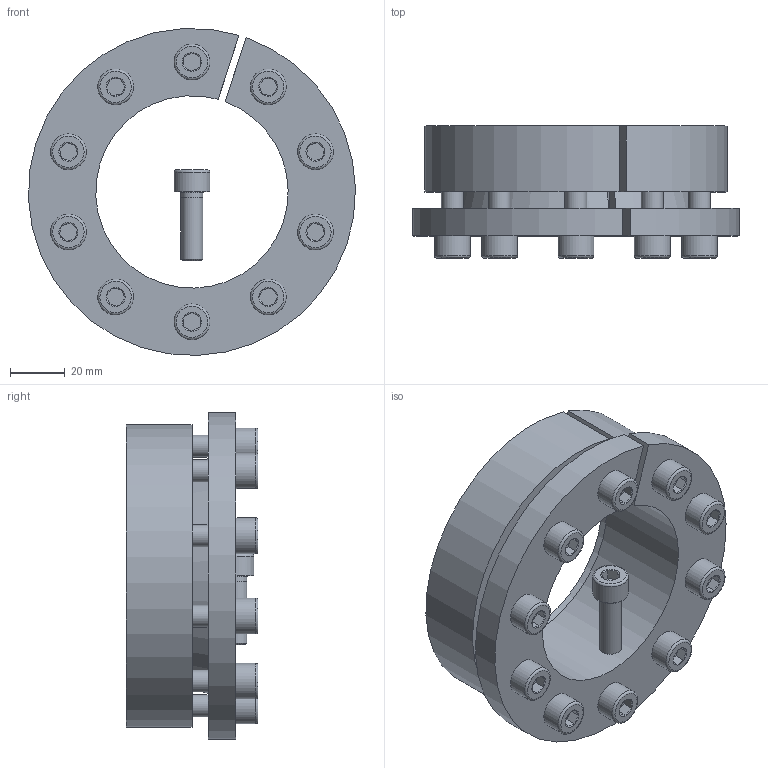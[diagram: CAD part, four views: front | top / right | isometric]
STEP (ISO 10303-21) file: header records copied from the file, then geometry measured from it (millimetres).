
FILE_DESCRIPTION( ( 'Unknown' ), '1' );
FILE_NAME( 'C:/Dokumente und Einstellungen/Sven/Desktop/homepage/cad - homepage/KBS16/KBS 16 - 70 x 110.stp', 'Unknown', ( 'Unknown' ), ( 'Unknown' ), 'XStep 1.0', 'Unknown', ' ' );
FILE_SCHEMA( ( 'automotive_design' ) );
Length unit declared in the file: millimetre
Products named in the file (3): Assem1; KBS 16 - 70 x 110; ISO EN DIN 4762 M8x25
Bounding box: 118.93 x 48 x 118.88 mm (x, y, z)
Volume: 421803.4 mm3; surface area: 119798.3 mm2
Topology: 13 solids, 13 shells, 339 faces, 673 edges, 404 vertices
Faces by surface type: plane 146, cylinder 90, cone 81, torus 22
Full cylindrical faces by diameter (mm): 7 x11, 8 x62, 13 x11
Entity records: 1978 total; most frequent: CARTESIAN_POINT 315, DIRECTION 300, ORIENTED_EDGE 210, AXIS2_PLACEMENT_3D 136, EDGE_LOOP 128, EDGE_CURVE 105, FACE_OUTER_BOUND 83, VERTEX_POINT 83
